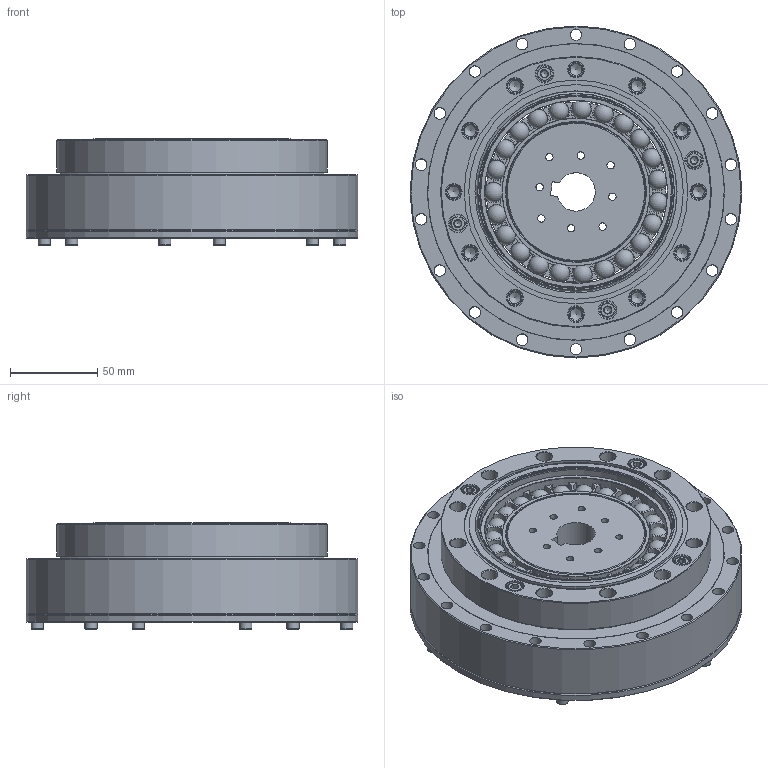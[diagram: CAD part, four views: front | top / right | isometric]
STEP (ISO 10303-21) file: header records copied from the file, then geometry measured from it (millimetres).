
FILE_DESCRIPTION(/* description */ (''),/* implementation_level */ '2;1');
FILE_NAME(/* name */ 'FHG-45-XX-U-I(孔径22W8).stp',/* time_stamp */ '2024-12-06T10:28:44+08:00',/* author */ (''),/* organization */ (''),/* preprocessor_version */ 'ST-DEVELOPER v16.7',/* originating_system */ 'SIEMENS PLM Software NX 12.0',/* authorisation */ '');
FILE_SCHEMA (('AUTOMOTIVE_DESIGN { 1 0 10303 214 3 1 1 1 }'));
Length unit declared in the file: millimetre
Products named in the file (15): TC-152x170x7_stp; EB7911016-45KCH-46; EB7911016-45KCH-04; EB7911016-45KCH-02; EB7911016-45KCH-01; GB-T70.1-2000,M4x12; GB-T70.1-2000,M5x20; O型密封圈128-122.8-1.5; O型密封圈170-164-1.5; 发生器FSG-45-XXDL直径22w8_stp; 刚轮FHG-45; 柔轮FHG-45; 交叉轴承LHT-45_stp; EB7911016-45KCH_stp; FHG-45-XX-U-I(孔径22W8)
Assembly tree (22 placements, depth 3):
  FHG-45-XX-U-I(孔径22W8)
    柔轮FHG-45
    刚轮FHG-45
    EB7911016-45KCH_stp
      EB7911016-45KCH-01
      EB7911016-45KCH-02
      EB7911016-45KCH-04
      EB7911016-45KCH-46
    发生器FSG-45-XXDL直径22w8_stp
    交叉轴承LHT-45_stp
      TC-152x170x7_stp
    O型密封圈170-164-1.5
    O型密封圈128-122.8-1.5
    GB-T70.1-2000,M5x20  x4
    GB-T70.1-2000,M4x12  x6
Bounding box: 190 x 190 x 61 mm (x, y, z)
Volume: 819933.9 mm3; surface area: 328869.6 mm2
Topology: 44 solids, 44 shells, 819 faces, 1886 edges, 1147 vertices
Faces by surface type: plane 249, cone 239, cylinder 217, torus 91, sphere 23
Full cylindrical faces by diameter (mm): 2.5 x4, 3.3 x6, 3.838 x6, 4.2 x20, 4.5 x6, 4.826 x4, 5.5 x4, 6.5 x18, 6.6 x18, 6.8 x12, 7 x6, 8.5 x4, 9 x12, 10 x4, 32 x1, 77 x1, 79.48 x2, 83 x1, 84.7 x2, 87.5 x1, 92 x1, 102.6 x1, 104.54 x2, 110.43 x2, 111.722 x1, 113.3 x1, 115.54 x1, 118 x1, 120 x2, 122.8 x3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
Entity records: 17138 total; most frequent: CARTESIAN_POINT 3890, DIRECTION 2861, ORIENTED_EDGE 1986, AXIS2_PLACEMENT_3D 1346, EDGE_LOOP 1079, EDGE_CURVE 993, FACE_BOUND 913, VERTEX_POINT 831
